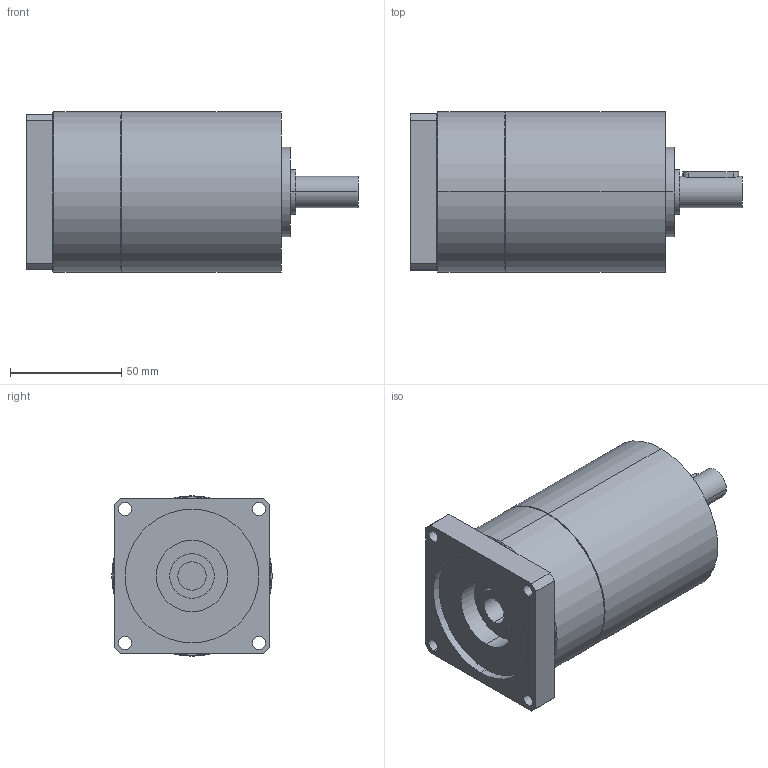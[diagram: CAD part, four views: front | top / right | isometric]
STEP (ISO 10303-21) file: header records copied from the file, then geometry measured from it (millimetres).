
FILE_DESCRIPTION(('CoCreate Modeling STEP Export'),'2;1');
FILE_NAME('GPT75_ig-9-12-16-20-25-28-35-40-50-70-100_14_B14T_12.7_P30.stp','2014-08-27T13:15:50',(''),(''),'CoCreate Modeling STEP processor for AP214 (Solid Model)','CoCreate Modeling 16.00C 25-Feb-2009 (C) Parametric Technology GmbH','');
FILE_SCHEMA(('AUTOMOTIVE_DESIGN { 1 0 10303 214 1 1 1 1 }'));
Length unit declared in the file: millimetre
Products named in the file (2): GPT75_ig-9-12-16-20-25-28-35-40-50-70-100_14_B14T_12.7_P30
Assembly tree (1 placements, depth 2):
  GPT75_ig-9-12-16-20-25-28-35-40-50-70-100_14_B14T_12.7_P30
    GPT75_ig-9-12-16-20-25-28-35-40-50-70-100_14_B14T_12.7_P30
Bounding box: 149 x 72 x 72 mm (x, y, z)
Volume: 464282 mm3; surface area: 43092.4 mm2
Topology: 1 solids, 1 shells, 76 faces, 182 edges, 121 vertices
Faces by surface type: cylinder 42, plane 30, cone 4
Entity records: 2265 total; most frequent: CARTESIAN_POINT 677, ORIENTED_EDGE 364, DIRECTION 268, EDGE_CURVE 182, VERTEX_POINT 121, AXIS2_PLACEMENT_3D 100, EDGE_LOOP 97, FACE_OUTER_BOUND 76
